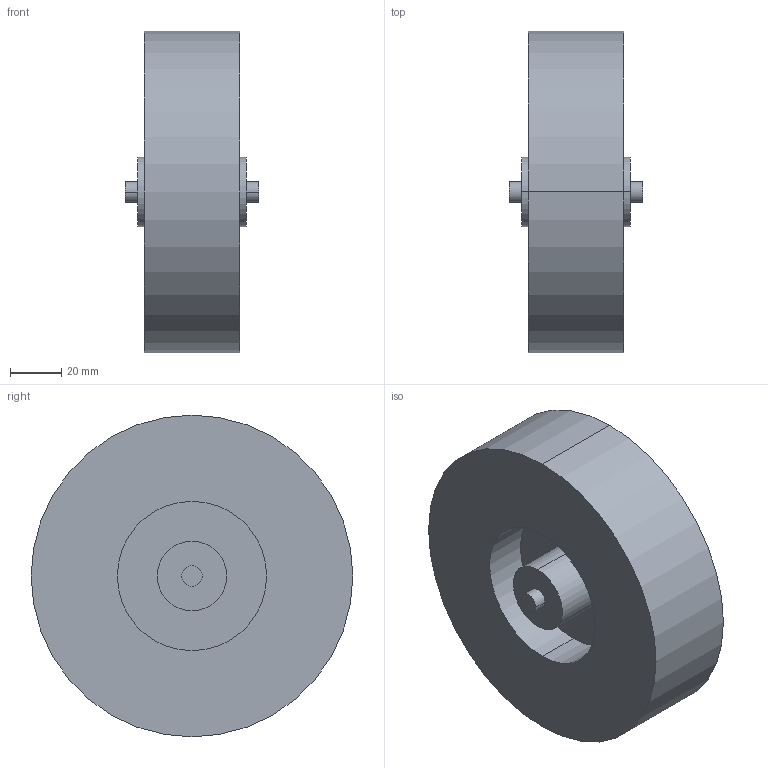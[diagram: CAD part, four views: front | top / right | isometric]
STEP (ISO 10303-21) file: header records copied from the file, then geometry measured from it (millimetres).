
FILE_DESCRIPTION((''),'2;1');
FILE_NAME('RUF125N_1','2002-12-27T',('Lipro doo'),('Lipro d.o.o.'),'PRO/ENGINEER BY PARAMETRIC TECHNOLOGY CORPORATION, 2001150','PRO/ENGINEER BY PARAMETRIC TECHNOLOGY CORPORATION, 2001150','');
FILE_SCHEMA(('CONFIG_CONTROL_DESIGN'));
Length unit declared in the file: millimetre
Products named in the file (1): RUF125N_1
Bounding box: 52 x 125 x 125 mm (x, y, z)
Volume: 387059.9 mm3; surface area: 48828.2 mm2
Topology: 1 solids, 1 shells, 22 faces, 42 edges, 28 vertices
Faces by surface type: cylinder 14, plane 8
Entity records: 612 total; most frequent: DIRECTION 114, CARTESIAN_POINT 92, ORIENTED_EDGE 84, AXIS2_PLACEMENT_3D 50, EDGE_CURVE 42, VERTEX_POINT 28, EDGE_LOOP 28, CIRCLE 28
